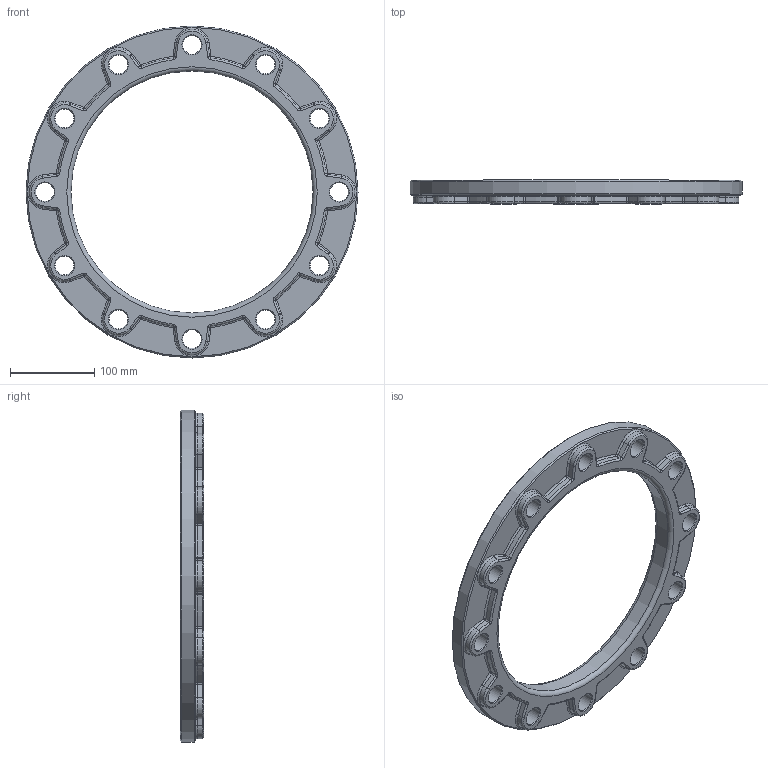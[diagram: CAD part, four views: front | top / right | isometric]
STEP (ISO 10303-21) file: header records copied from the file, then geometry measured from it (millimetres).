
FILE_DESCRIPTION(/* description */ ('Unknown'),/* implementation_level */ '2;1');
FILE_NAME(/* name */ 'FA250B',/* time_stamp */ '2022-07-21T10:45:56+02:00',/* author */ ('Unknown'),/* organization */ ('Unknown'),/* preprocessor_version */ 'ST-DEVELOPER v18.102',/* originating_system */ 'Solid Edge',/* authorisation */ 'Unknown');
FILE_SCHEMA (('AUTOMOTIVE_DESIGN {1 0 10303 214 3 1 1}'));
Length unit declared in the file: millimetre
Products named in the file (1): FA250B
Bounding box: 395 x 28 x 395 mm (x, y, z)
Volume: 1188252.1 mm3; surface area: 182559.6 mm2
Topology: 1 solids, 1 shells, 255 faces, 624 edges, 350 vertices
Faces by surface type: cylinder 108, torus 72, plane 27, cone 26, sphere 22
Full cylindrical faces by diameter (mm): 22 x12, 288 x1, 395 x1
Entity records: 6874 total; most frequent: DIRECTION 1386, CARTESIAN_POINT 1110, ORIENTED_EDGE 1048, AXIS2_PLACEMENT_3D 610, EDGE_CURVE 524, CIRCLE 354, EDGE_LOOP 324, FACE_BOUND 324
